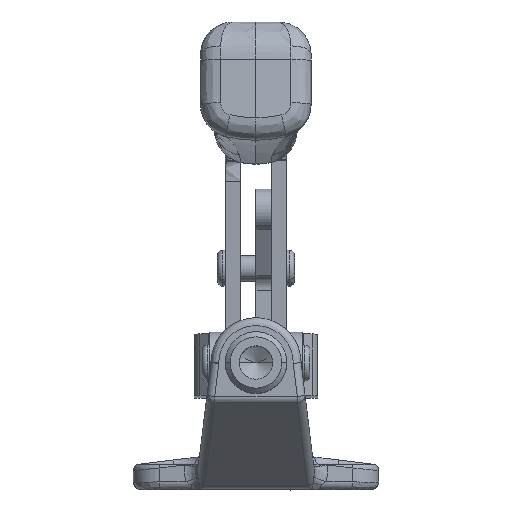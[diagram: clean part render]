
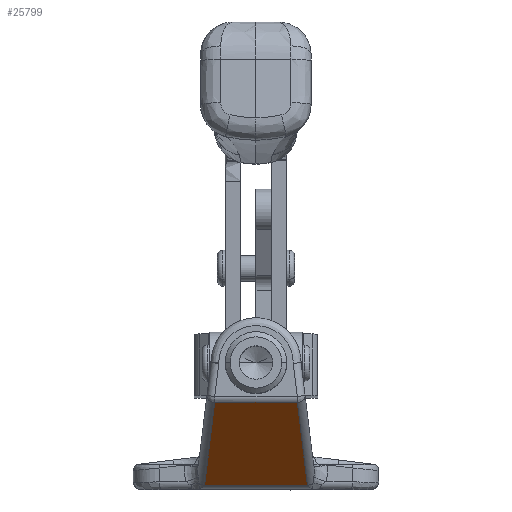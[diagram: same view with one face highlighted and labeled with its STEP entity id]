
A CAD part, top view. The second image highlights one B-rep face of the part: STEP entity #25799.
In plain terms, the highlighted planar face has unit normal (0, -0.766, 0.643).
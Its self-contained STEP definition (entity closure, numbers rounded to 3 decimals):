
#1084 = ORIENTED_EDGE ( 'NONE', *, *, #27489, .F. ) ;
#1093 = ORIENTED_EDGE ( 'NONE', *, *, #28221, .F. ) ;
#1481 = VERTEX_POINT ( 'NONE', #10784 ) ;
#2228 = LINE ( 'NONE', #22405, #25756 ) ;
#2411 = VERTEX_POINT ( 'NONE', #21872 ) ;
#2645 = CARTESIAN_POINT ( 'NONE',  ( 8.695, -13.093, 73.331 ) ) ;
#3278 = CARTESIAN_POINT ( 'NONE',  ( -8.034, -7.733, 79.72 ) ) ;
#3370 = CARTESIAN_POINT ( 'NONE',  ( -8.034, -7.733, 79.72 ) ) ;
#4000 = CARTESIAN_POINT ( 'NONE',  ( -16.51, -7.276, 80.264 ) ) ;
#4408 = B_SPLINE_CURVE_WITH_KNOTS ( 'NONE', 3, ( #16232, #4706, #7050, #23048 ), .UNSPECIFIED., .F., .F., ( 4, 4 ), ( 0., 1. ), .UNSPECIFIED. ) ;
#4517 = LINE ( 'NONE', #25496, #22009 ) ;
#4634 = B_SPLINE_CURVE_WITH_KNOTS ( 'NONE', 3, ( #12213, #5632, #19403, #3370 ), .UNSPECIFIED., .F., .F., ( 4, 4 ), ( 0., 1. ), .UNSPECIFIED. ) ;
#4706 = CARTESIAN_POINT ( 'NONE',  ( -10.024, -23.864, 60.495 ) ) ;
#5632 = CARTESIAN_POINT ( 'NONE',  ( -9.356, -18.454, 66.942 ) ) ;
#5649 = VERTEX_POINT ( 'NONE', #11882 ) ;
#6097 = CARTESIAN_POINT ( 'NONE',  ( -10.017, -23.815, 60.554 ) ) ;
#6400 = B_SPLINE_CURVE_WITH_KNOTS ( 'NONE', 3, ( #16052, #2645, #14042, #14238 ), .UNSPECIFIED., .F., .F., ( 4, 4 ), ( 0., 1. ), .UNSPECIFIED. ) ;
#7050 = CARTESIAN_POINT ( 'NONE',  ( -10.021, -23.839, 60.524 ) ) ;
#7460 = ORIENTED_EDGE ( 'NONE', *, *, #18697, .F. ) ;
#7853 = ORIENTED_EDGE ( 'NONE', *, *, #18238, .F. ) ;
#10323 = DIRECTION ( 'NONE',  ( 1., 0., 0. ) ) ;
#10784 = CARTESIAN_POINT ( 'NONE',  ( -8.034, -7.733, 79.72 ) ) ;
#10891 = CARTESIAN_POINT ( 'NONE',  ( 10.018, -23.815, 60.554 ) ) ;
#11161 = DIRECTION ( 'NONE',  ( 0., 0.766, -0.643 ) ) ;
#11716 = DIRECTION ( 'NONE',  ( 0.081, -0.641, -0.764 ) ) ;
#11882 = CARTESIAN_POINT ( 'NONE',  ( 10.028, -23.889, 60.465 ) ) ;
#11972 = VERTEX_POINT ( 'NONE', #23611 ) ;
#12213 = CARTESIAN_POINT ( 'NONE',  ( -10.017, -23.815, 60.554 ) ) ;
#13086 = EDGE_CURVE ( 'NONE', #11972, #29384, #4408, .T. ) ;
#13280 = DIRECTION ( 'NONE',  ( -1., 0., 0. ) ) ;
#14042 = CARTESIAN_POINT ( 'NONE',  ( 9.357, -18.454, 66.942 ) ) ;
#14238 = CARTESIAN_POINT ( 'NONE',  ( 10.018, -23.815, 60.554 ) ) ;
#15154 = AXIS2_PLACEMENT_3D ( 'NONE', #4000, #11161, #17655 ) ;
#16052 = CARTESIAN_POINT ( 'NONE',  ( 8.034, -7.733, 79.72 ) ) ;
#16232 = CARTESIAN_POINT ( 'NONE',  ( -10.028, -23.889, 60.465 ) ) ;
#16532 = EDGE_CURVE ( 'NONE', #5649, #11972, #2228, .T. ) ;
#17655 = DIRECTION ( 'NONE',  ( 0., 0.643, 0.766 ) ) ;
#18238 = EDGE_CURVE ( 'NONE', #2411, #23223, #6400, .T. ) ;
#18697 = EDGE_CURVE ( 'NONE', #1481, #2411, #24578, .T. ) ;
#19403 = CARTESIAN_POINT ( 'NONE',  ( -8.695, -13.093, 73.331 ) ) ;
#20573 = ORIENTED_EDGE ( 'NONE', *, *, #13086, .F. ) ;
#20675 = FACE_OUTER_BOUND ( 'NONE', #28174, .T. ) ;
#21872 = CARTESIAN_POINT ( 'NONE',  ( 8.034, -7.733, 79.72 ) ) ;
#22009 = VECTOR ( 'NONE', #11716, 1000. ) ;
#22405 = CARTESIAN_POINT ( 'NONE',  ( -16.51, -23.889, 60.465 ) ) ;
#23048 = CARTESIAN_POINT ( 'NONE',  ( -10.017, -23.815, 60.554 ) ) ;
#23223 = VERTEX_POINT ( 'NONE', #10891 ) ;
#23510 = VECTOR ( 'NONE', #10323, 1000. ) ;
#23611 = CARTESIAN_POINT ( 'NONE',  ( -10.028, -23.889, 60.465 ) ) ;
#24578 = LINE ( 'NONE', #3278, #23510 ) ;
#24847 = PLANE ( 'NONE',  #15154 ) ;
#25496 = CARTESIAN_POINT ( 'NONE',  ( 10.018, -23.815, 60.554 ) ) ;
#25756 = VECTOR ( 'NONE', #13280, 1000. ) ;
#25799 = ADVANCED_FACE ( 'NONE', ( #20675 ), #24847, .F. ) ;
#26772 = ORIENTED_EDGE ( 'NONE', *, *, #16532, .F. ) ;
#27489 = EDGE_CURVE ( 'NONE', #23223, #5649, #4517, .T. ) ;
#28174 = EDGE_LOOP ( 'NONE', ( #1084, #7853, #7460, #1093, #20573, #26772 ) ) ;
#28221 = EDGE_CURVE ( 'NONE', #29384, #1481, #4634, .T. ) ;
#29384 = VERTEX_POINT ( 'NONE', #6097 ) ;
